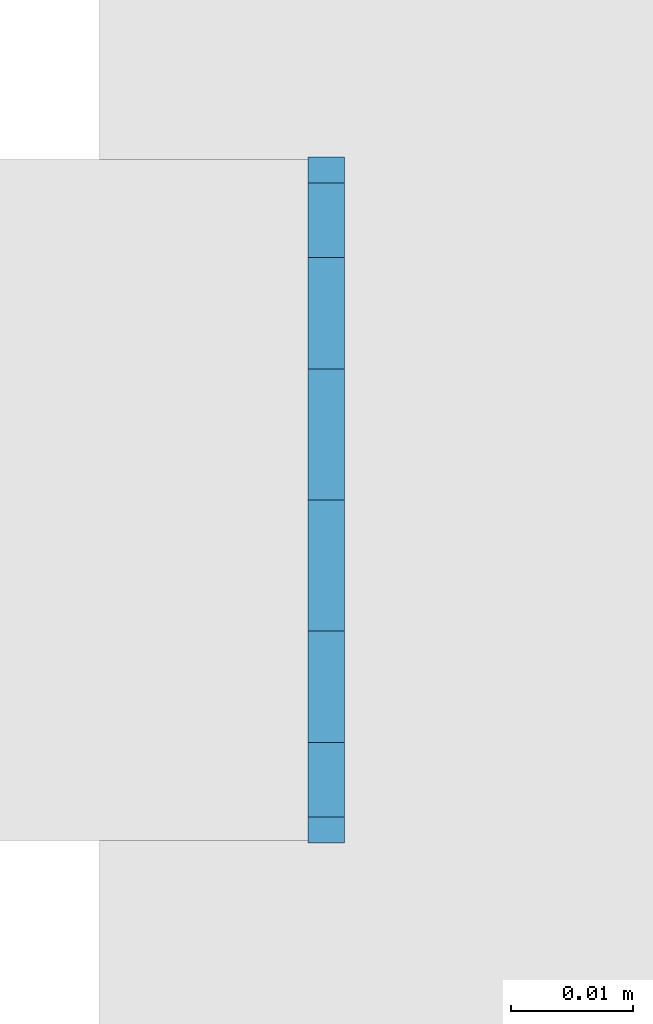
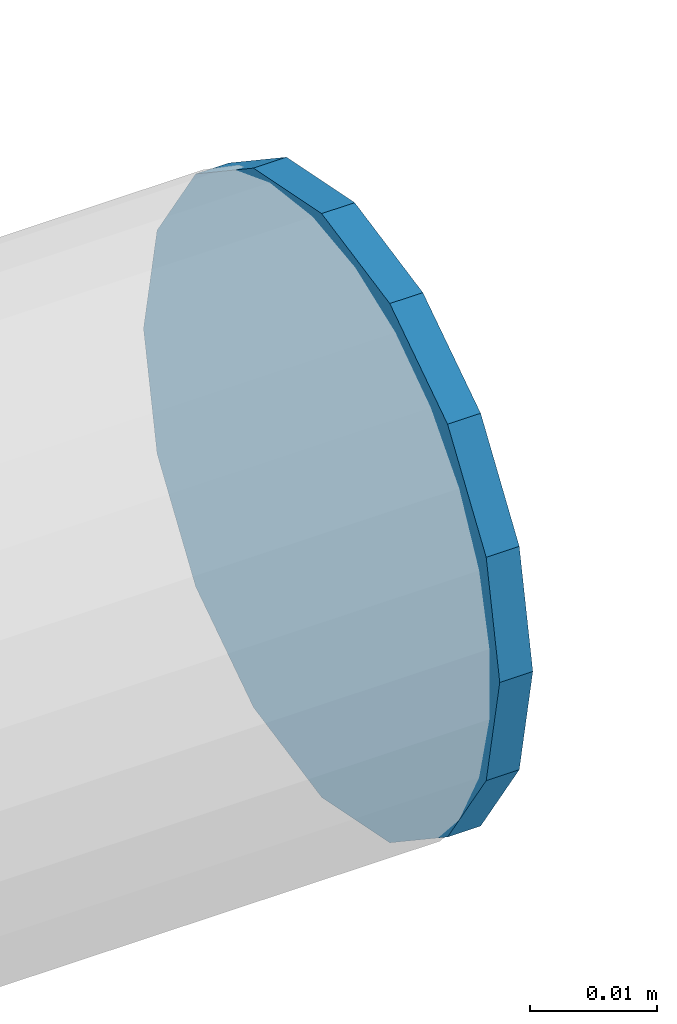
# One storey, part 65 of 186: 1 beam.
"""IFC4X3_ADD2 building model written with IfcOpenShell, lengths in millimetres."""

from ifc_helpers import new_model, si_unit, direction, frame, origin_with_axes, place, context, subcontext, project, spatial, indexed_curve, outline, extrude, material, element, save


model = new_model("IFC4X3_ADD2")

# Units and contexts
model_context = context("Model", 3, precision=1e-05, world=origin_with_axes(), true_north=direction((0.0, 1.0)))
body_context = subcontext(model_context, "Body", "Model", "MODEL_VIEW")
ifc_project = project(units=[si_unit("LENGTHUNIT", "METRE", prefix="MILLI"), si_unit("AREAUNIT", "SQUARE_METRE"), si_unit("VOLUMEUNIT", "CUBIC_METRE"), si_unit("PLANEANGLEUNIT", "RADIAN"), si_unit("TIMEUNIT", "SECOND"), si_unit("MASSUNIT", "GRAM")], contexts=[model_context])

# Site, building, storey
site_placement = place(None, origin_with_axes())
site = spatial("IfcSite", under=ifc_project, at=site_placement, Name="Site", CompositionType="ELEMENT")
building_placement = place(site_placement, origin_with_axes())
building = spatial("IfcBuilding", under=site, at=building_placement, Name="IFC Building Story")
storey_placement = place(building_placement, frame((0.0, 0.0, 4370.0), z_axis=(0.0, 0.0, 1.0), x_axis=(1.0, 0.0, 0.0)))
storey = spatial("IfcBuildingStorey", under=building, at=storey_placement, Name="ETAGE 10 (1)", Elevation=4370.0)

# Beam
ifc_material = material(Name="STEEL/Accessory 22919")
beam_placement = place(storey_placement, frame((22351.18920843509, 349.999963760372, 1346.422), z_axis=(-1.0, 0.0, 0.0), x_axis=(0.0, 0.5555702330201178, 0.8314696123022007)))
element("IfcBeam", 1, at=beam_placement, inside=storey, material=ifc_material, Name="TA4", ObjectType="D56", context=body_context, shape_type="SweptSolid", body=[
    extrude(outline(indexed_curve([(23.28114914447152, 15.55596652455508), (27.46198785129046, 5.462529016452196), (27.46198785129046, -5.462529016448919), (23.28114914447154, -15.55596652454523), (15.55596652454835, -23.28114914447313), (5.462529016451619, -27.46198785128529), (-5.462529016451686, -27.46198785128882), (-15.55596652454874, -23.28114914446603), (-23.2811491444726, -15.55596652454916), (-27.46198785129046, -5.462529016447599), (-27.46198785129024, 5.462529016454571), (-23.28114914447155, 15.55596652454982), (-15.55596652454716, 23.28114914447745), (-5.462529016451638, 27.46198785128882), (5.462529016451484, 27.46198785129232), (15.55596652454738, 23.28114914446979), (23.28114914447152, 15.55596652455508)])), origin_with_axes(), (0.0, 0.0, 1.0), 2.999999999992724),
])

save(model, "model.ifc")
